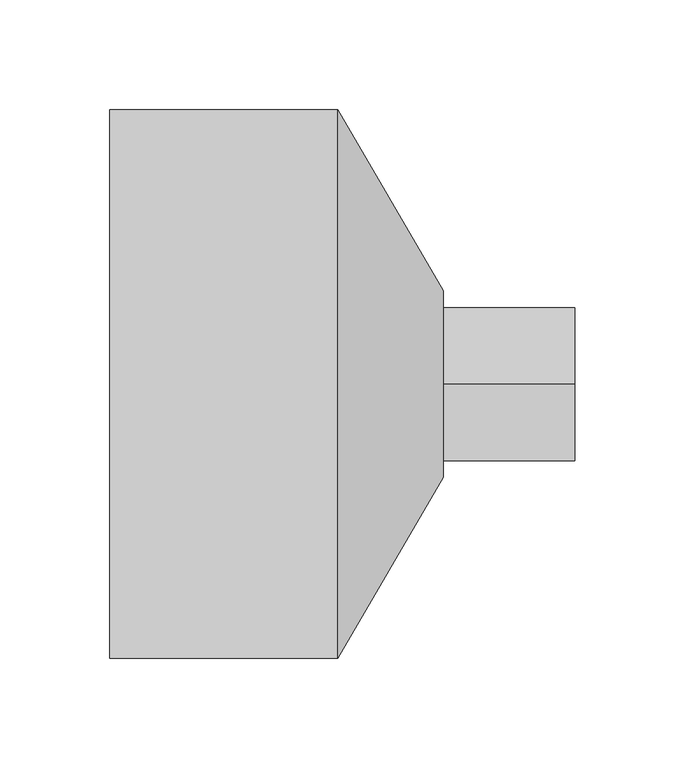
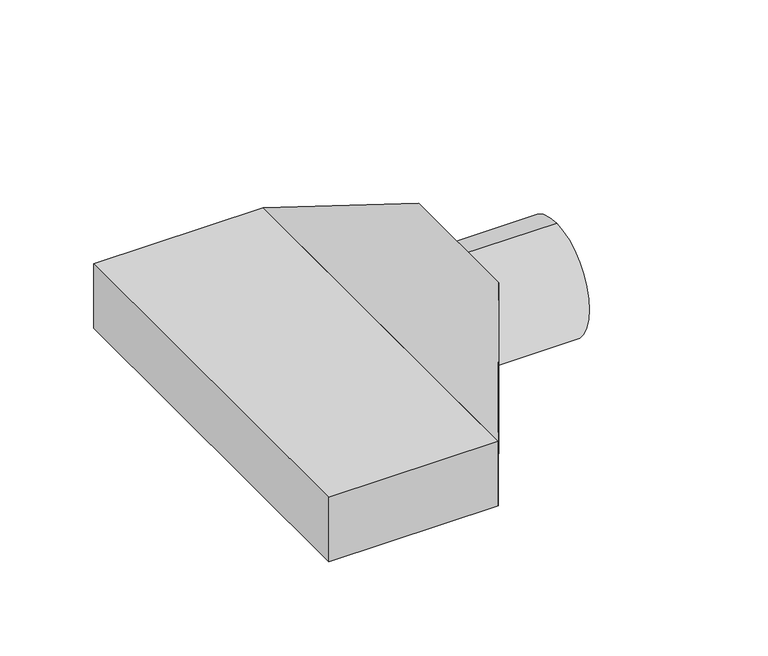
"""IFC4 building model written with IfcOpenShell, lengths in millimetres: sanitary terminal geometry, PF_WPB_Attica connection_ACO : Attica connection."""

from ifc_helpers import new_model, si_unit, frame, origin, origin_with_axes, place, context, project, spatial, polyline, circle_curve, outline, extrude, faceted_brep, source, transform, mapped, element, save
from ifc_brep_helpers import plane_surface, cylinder_surface, advanced_brep


def sanitary_terminal_286f83f7(model_context):
    return source(origin(), model_context, "Body", "SolidModel", [
        advanced_brep(
        [(152.0, 0.0, 70.0), (152.0, 0.0, 0.0), (152.0, 0.0, 35.0), (212.0, 0.0, 70.0), (212.0, 0.0, 0.0), (212.0, 0.0, 35.0)],
        [
            (0, 1, circle_curve(frame((152.0, 0.0, 35.0), z_axis=(-1.0, 0.0, 0.0), x_axis=(0.0, 0.0, -1.0)), 35.0)),
            (1, 2),
            (2, 0),
            (1, 0, circle_curve(frame((152.0, 0.0, 35.0), z_axis=(-1.0, 0.0, 0.0), x_axis=(0.0, 0.0, -1.0)), 35.0)),
            (3, 4, circle_curve(frame((212.0, 0.0, 35.0), z_axis=(-1.0, 0.0, 0.0), x_axis=(0.0, 0.0, -1.0)), 35.0)),
            (4, 1),
            (0, 3),
            (4, 3, circle_curve(frame((212.0, 0.0, 35.0), z_axis=(-1.0, 0.0, 0.0), x_axis=(0.0, 0.0, -1.0)), 35.0)),
            (5, 4),
            (3, 5),
        ],
        [
            plane_surface(frame((152.0, 0.0, 35.0), z_axis=(-1.0, 0.0, 0.0), x_axis=(0.0, 0.0, -1.0))),
            cylinder_surface(frame((223.7623922, 0.0, 35.0), z_axis=(1.0, 0.0, 0.0), x_axis=(0.0, 0.0, -1.0)), 35.0),
            plane_surface(frame((212.0, 0.0, 35.0), z_axis=(1.0, 0.0, 0.0), x_axis=(0.0, 0.0, -1.0))),
        ],
        [
            (0, [[1, 2, 3]]),
            (0, [[4, -3, -2]]),
            (1, [[5, 6, -1, 7]]),
            (1, [[8, -7, -4, -6]]),
            (2, [[9, -5, 10]]),
            (2, [[-10, -8, -9]]),
        ],
    ),
        faceted_brep([(104.0, 125.0, 42.0796669), (104.0, -125.0, 42.0796669), (152.0, -42.5, 78.0796669), (152.0, 42.5, 78.0796669), (104.0, 125.0, 0.0), (104.0, -125.0, 0.0), (152.0, 42.5, 0.0), (152.0, -42.5, 0.0)], [[[0, 1, 2, 3]], [[1, 0, 4, 5]], [[5, 4, 6, 7]], [[3, 2, 7, 6]], [[2, 1, 5, 7]], [[0, 3, 6, 4]]]),
        extrude(outline(polyline([(104.0, -125.0), (0.0, -125.0), (0.0, 125.0), (104.0, 125.0), (104.0, -125.0)])), origin_with_axes(), (0.0, 0.0, 1.0), 42.0),
    ])


if __name__ == "__main__":
    model = new_model("IFC4")
    model_context = context("Model", 3, world=origin())
    ifc_project = project(units=[si_unit("LENGTHUNIT", "METRE", prefix="MILLI")], contexts=[model_context])
    site = spatial("IfcSite", under=ifc_project)
    building = spatial("IfcBuilding", under=site)
    placement = place(None, origin())
    sanitary_terminal_shape = sanitary_terminal_286f83f7(model_context)
    element("IfcSanitaryTerminal", 1, ObjectType="PF_WPB_Attica connection_ACO : Attica connection", at=placement, inside=building, context=model_context, shape_type="MappedRepresentation", body=[
        mapped(sanitary_terminal_shape, transform((0.0, 0.0, 0.0), x_axis=(1.0, 0.0, 0.0), y_axis=(0.0, 1.0, 0.0), z_axis=(0.0, 0.0, 1.0))),
    ])
    save(model, "model.ifc")
